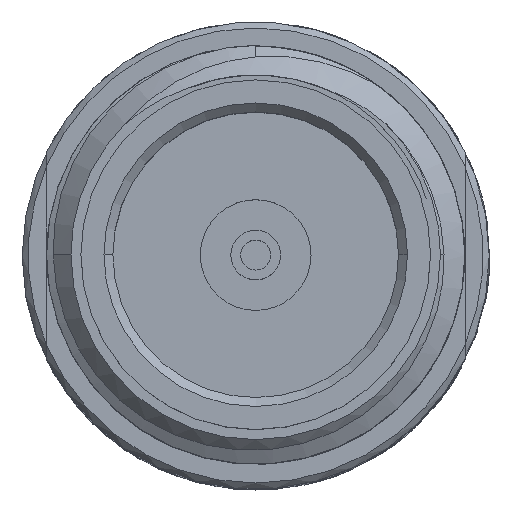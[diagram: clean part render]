
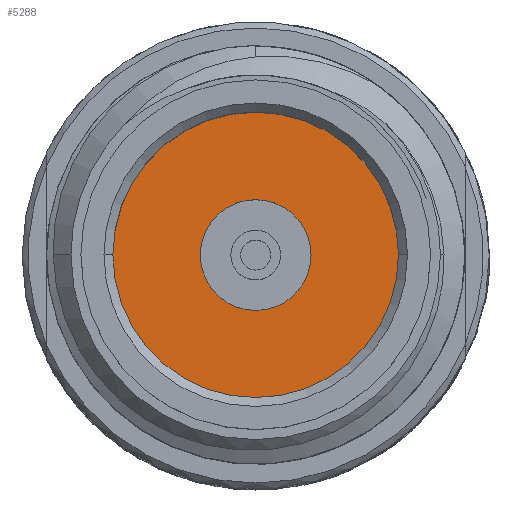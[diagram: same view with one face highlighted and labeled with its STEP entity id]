
A CAD part, top view. The second image highlights one B-rep face of the part: STEP entity #5288.
In plain terms, the highlighted planar face has unit normal (0, 0, 1).
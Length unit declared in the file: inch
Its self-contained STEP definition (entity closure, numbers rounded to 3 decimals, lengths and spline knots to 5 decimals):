
#376 = AXIS2_PLACEMENT_3D ( 'NONE', #12896, #8300, #6996 ) ;
#1055 = CARTESIAN_POINT ( 'NONE',  ( 0., 0., 0.54921 ) ) ;
#1314 = AXIS2_PLACEMENT_3D ( 'NONE', #13582, #2512, #5017 ) ;
#1725 = VERTEX_POINT ( 'NONE', #3630 ) ;
#1891 = CARTESIAN_POINT ( 'NONE',  ( 0., 0.0939, 0.54921 ) ) ;
#2188 = DIRECTION ( 'NONE',  ( 0., 0., 1. ) ) ;
#2464 = DIRECTION ( 'NONE',  ( 1., 0., 0. ) ) ;
#2512 = DIRECTION ( 'NONE',  ( 0., 0., 1. ) ) ;
#2893 = VERTEX_POINT ( 'NONE', #5054 ) ;
#3630 = CARTESIAN_POINT ( 'NONE',  ( -0.03642, 0., 0.54921 ) ) ;
#3686 = CARTESIAN_POINT ( 'NONE',  ( 0., 0., 0.54921 ) ) ;
#4422 = AXIS2_PLACEMENT_3D ( 'NONE', #1891, #12716, #12635 ) ;
#4527 = EDGE_CURVE ( 'NONE', #14824, #11822, #12405, .T. ) ;
#5017 = DIRECTION ( 'NONE',  ( 1., 0., 0. ) ) ;
#5039 = ORIENTED_EDGE ( 'NONE', *, *, #13857, .T. ) ;
#5054 = CARTESIAN_POINT ( 'NONE',  ( 0.03642, 0., 0.54921 ) ) ;
#5288 = ADVANCED_FACE ( 'NONE', ( #11749, #8025 ), #10303, .F. ) ;
#5623 = AXIS2_PLACEMENT_3D ( 'NONE', #1055, #2188, #13261 ) ;
#5830 = ORIENTED_EDGE ( 'NONE', *, *, #4527, .T. ) ;
#6996 = DIRECTION ( 'NONE',  ( 1., 0., 0. ) ) ;
#7729 = ORIENTED_EDGE ( 'NONE', *, *, #11044, .F. ) ;
#8025 = FACE_BOUND ( 'NONE', #9943, .T. ) ;
#8300 = DIRECTION ( 'NONE',  ( 0., 0., 1. ) ) ;
#8611 = DIRECTION ( 'NONE',  ( 0., 0., 1. ) ) ;
#8647 = CARTESIAN_POINT ( 'NONE',  ( -0.0939, 0., 0.54921 ) ) ;
#8731 = CIRCLE ( 'NONE', #11565, 0.03642 ) ;
#8969 = CIRCLE ( 'NONE', #5623, 0.0939 ) ;
#9943 = EDGE_LOOP ( 'NONE', ( #7729, #13669 ) ) ;
#10303 = PLANE ( 'NONE',  #4422 ) ;
#10717 = CIRCLE ( 'NONE', #376, 0.03642 ) ;
#11044 = EDGE_CURVE ( 'NONE', #2893, #1725, #10717, .T. ) ;
#11565 = AXIS2_PLACEMENT_3D ( 'NONE', #3686, #8611, #2464 ) ;
#11749 = FACE_OUTER_BOUND ( 'NONE', #15188, .T. ) ;
#11822 = VERTEX_POINT ( 'NONE', #11942 ) ;
#11942 = CARTESIAN_POINT ( 'NONE',  ( 0.0939, 0., 0.54921 ) ) ;
#12405 = CIRCLE ( 'NONE', #1314, 0.0939 ) ;
#12635 = DIRECTION ( 'NONE',  ( -1., 0., 0. ) ) ;
#12716 = DIRECTION ( 'NONE',  ( 0., 0., -1. ) ) ;
#12896 = CARTESIAN_POINT ( 'NONE',  ( 0., 0., 0.54921 ) ) ;
#13261 = DIRECTION ( 'NONE',  ( 1., 0., 0. ) ) ;
#13582 = CARTESIAN_POINT ( 'NONE',  ( 0., 0., 0.54921 ) ) ;
#13669 = ORIENTED_EDGE ( 'NONE', *, *, #15253, .F. ) ;
#13857 = EDGE_CURVE ( 'NONE', #11822, #14824, #8969, .T. ) ;
#14824 = VERTEX_POINT ( 'NONE', #8647 ) ;
#15188 = EDGE_LOOP ( 'NONE', ( #5039, #5830 ) ) ;
#15253 = EDGE_CURVE ( 'NONE', #1725, #2893, #8731, .T. ) ;
